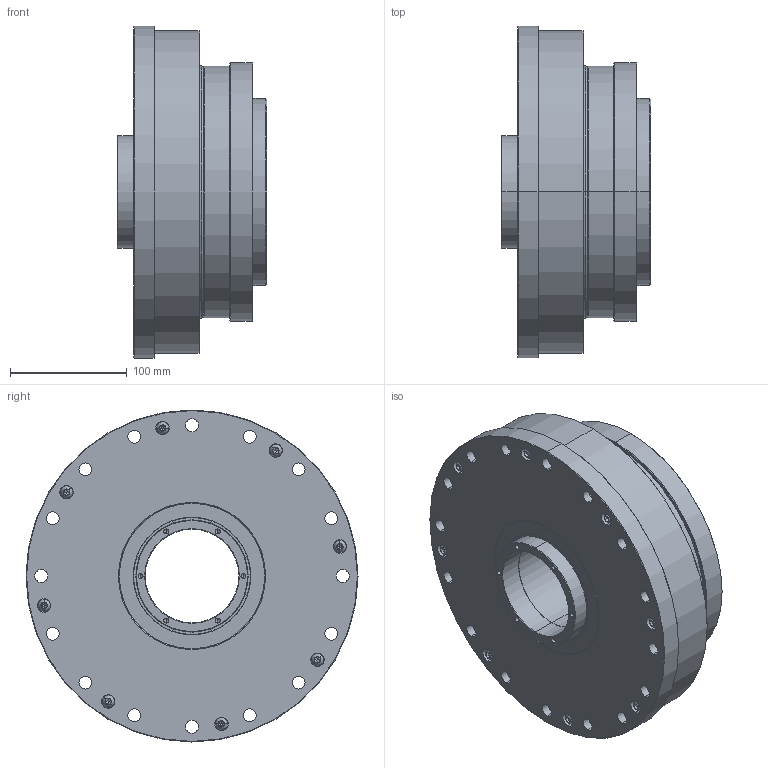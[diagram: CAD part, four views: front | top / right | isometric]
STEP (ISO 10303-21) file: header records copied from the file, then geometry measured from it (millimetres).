
FILE_DESCRIPTION (( 'STEP AP203' ), '1' );
FILE_NAME ('FHG-65-XXX-AH.STEP', '2022-02-16T11:26:27', ( '' ), ( '' ), 'SwSTEP 2.0', 'SolidWorks 2016', '' );
FILE_SCHEMA (( 'CONFIG_CONTROL_DESIGN' ));
Length unit declared in the file: millimetre
Products named in the file (1): FHG-65-XXX-AH
Bounding box: 128 x 284 x 284 mm (x, y, z)
Volume: 3670402.9 mm3; surface area: 1135842.2 mm2
Topology: 59 solids, 59 shells, 1842 faces, 5597 edges, 3623 vertices
Faces by surface type: cylinder 635, plane 378, torus 333, sphere 300, cone 196
Entity records: 70744 total; most frequent: CARTESIAN_POINT 22857, ORIENTED_EDGE 10152, DIRECTION 10151, EDGE_CURVE 5076, AXIS2_PLACEMENT_3D 4470, VERTEX_POINT 3334, CIRCLE 2627, EDGE_LOOP 2268
